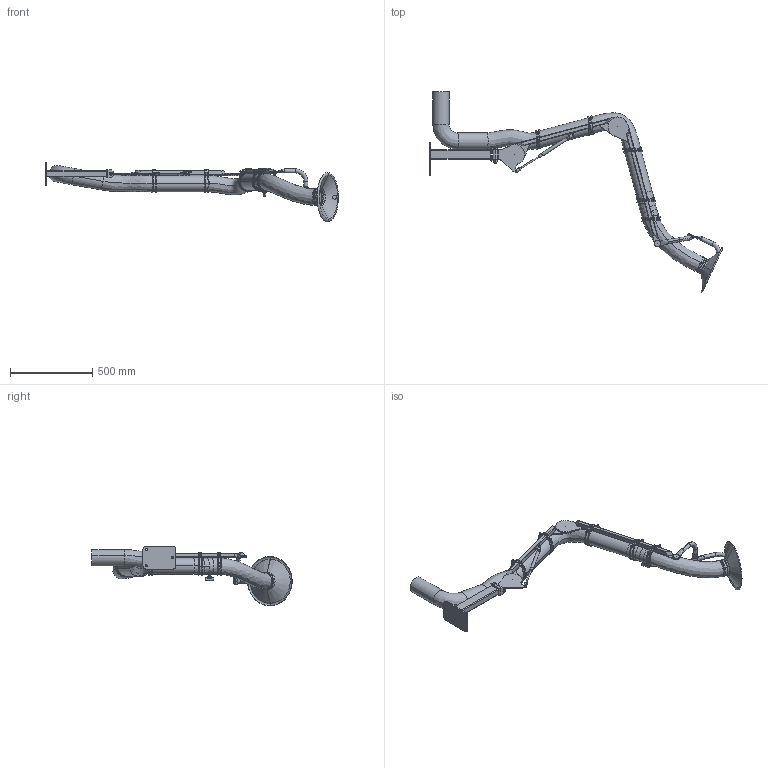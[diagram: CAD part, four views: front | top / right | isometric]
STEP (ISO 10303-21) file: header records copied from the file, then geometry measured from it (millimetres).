
FILE_DESCRIPTION((''),'2;1');
FILE_NAME('PSR_2000-100_D_EXD','2022-10-04T13:19:47',('Tomas Bellgran'),(''),'CREO PARAMETRIC BY PTC INC, 2018260','CREO PARAMETRIC BY PTC INC, 2018260','');
FILE_SCHEMA(('AUTOMOTIVE_DESIGN { 1 0 10303 214 1 1 1 1 }'));
Length unit declared in the file: millimetre
Products named in the file (42): 141554; 141580; 141581; 122701; 141512; 141556; 141582; 141587; 141522; 121391; 131150; 139380; 131151; 131170; 144356; 141589; 134343_AF0; G_P136_WELD-REF; 141590; 122717_LIGHT; 120127_COMPL_LIGHT; 130315; ROD_STAB_8-160-REF; 131095; 130320_AF33; 131145; 139635; 139656; 139614; 139630; 131205; 122291; 122295; 131215; 131219; 131220; 131200; 141620; 121078; 124460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
Assembly tree (57 placements, depth 4):
  PSR_2000-100_D_EXD
    141512
      141554
      141580
      141581
      122701
    141522
      141556
      141582
      141587
    121391  x4
    131150
    131170
      139380
      131151
    144356  x2
    141590
      141589
      134343_AF0
      G_P136_WELD-REF
    122717_LIGHT
    120127_COMPL_LIGHT
    130320_AF33
      130315
      ROD_STAB_8-160-REF
      131095  x2
    131145  x2
    139630
      139635  x3
      139656
      139614
    131200
      131205
      122295
        122291
      131220
        131215
        131219
    141620
    121078
    124460  x5
    107521-11  x5
Bounding box: 1785.47 x 1221.27 x 362.95 mm (x, y, z)
Volume: 22638445.6 mm3; surface area: 1675199.8 mm2
Topology: 48 solids, 48 shells, 1103 faces, 2621 edges, 1619 vertices
Faces by surface type: plane 397, cylinder 350, bspline 202, torus 68, cone 56, extrusion 15, revolution 13, sphere 2
Entity records: 39652 total; most frequent: CARTESIAN_POINT 13127, DIRECTION 3358, ORIENTED_EDGE 3082, PRESENTATION_STYLE_ASSIGNMENT 2166, STYLED_ITEM 2139, CURVE_STYLE 1561, EDGE_CURVE 1541, AXIS2_PLACEMENT_3D 1329
